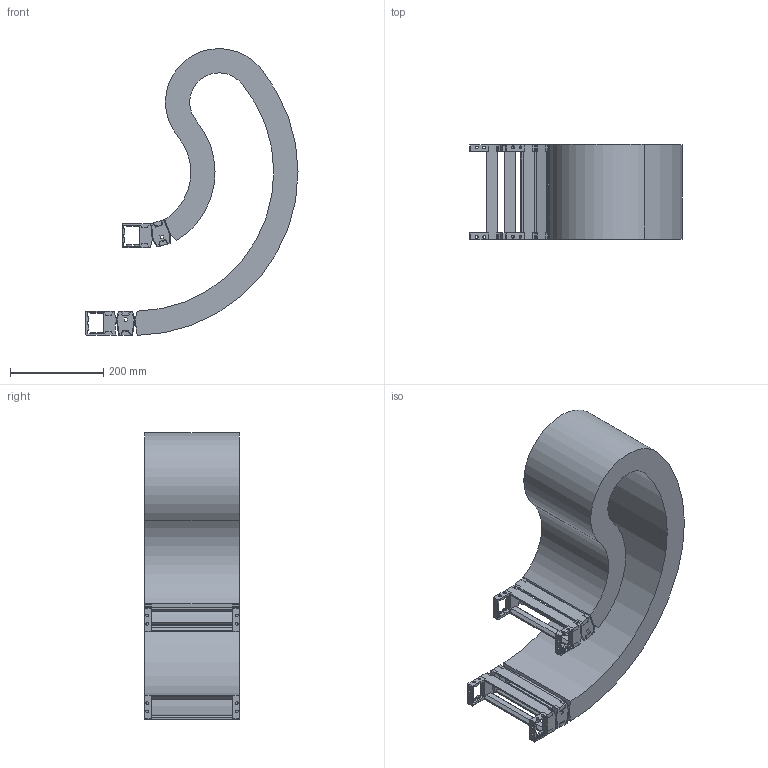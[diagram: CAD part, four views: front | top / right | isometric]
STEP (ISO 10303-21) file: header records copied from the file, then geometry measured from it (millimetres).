
FILE_DESCRIPTION( ( 'STEP AP214' ), '1' );
FILE_NAME( 'e:/temp/worker_69/temp/exporttempdir_6888_149_esbwH/format_2/RV040CRA20321112070230340-001751890.0647.stp', '2021-07-26T15:26:08', ( 'License CC BY-ND 4.0' ), ( 'CADENAS' ), ' ', 'PARTsolutions', ' ' );
FILE_SCHEMA( ( 'AUTOMOTIVE_DESIGN { 1 0 10303 214 1 1 1 1 }' ) );
Length unit declared in the file: millimetre
Products named in the file (4): RV040CRA20321112070230340-001751890.0647; _RV040CRA20321112070230340-001751152.16-Chain; _RV040CR-SU-40-175; _RV040CR_FB-203
Assembly tree (5 placements, depth 2):
  RV040CRA20321112070230340-001751890.0647
    _RV040CRA20321112070230340-001751152.16-Chain
    _RV040CR-SU-40-175  x2
    _RV040CR_FB-203  x2
Bounding box: 455 x 203 x 615.45 mm (x, y, z)
Volume: 4932343.5 mm3; surface area: 1338806.2 mm2
Topology: 5 solids, 5 shells, 692 faces, 2020 edges, 1332 vertices
Faces by surface type: plane 524, cylinder 168
Full cylindrical faces by diameter (mm): 6 x24
Entity records: 14556 total; most frequent: CARTESIAN_POINT 2056, ORIENTED_EDGE 2036, DIRECTION 1930, EDGE_CURVE 1018, LINE 830, VECTOR 830, VERTEX_POINT 676, AXIS2_PLACEMENT_3D 550
